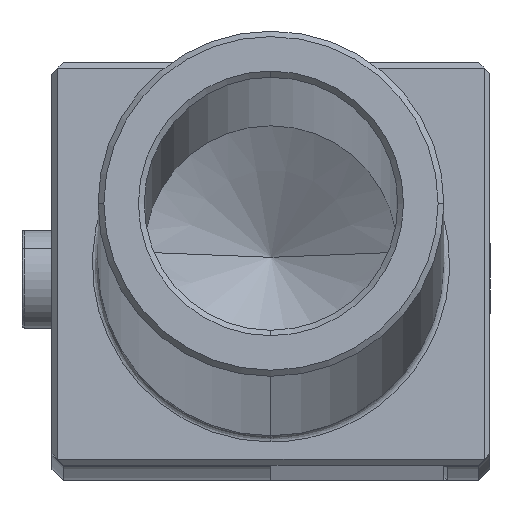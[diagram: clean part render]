
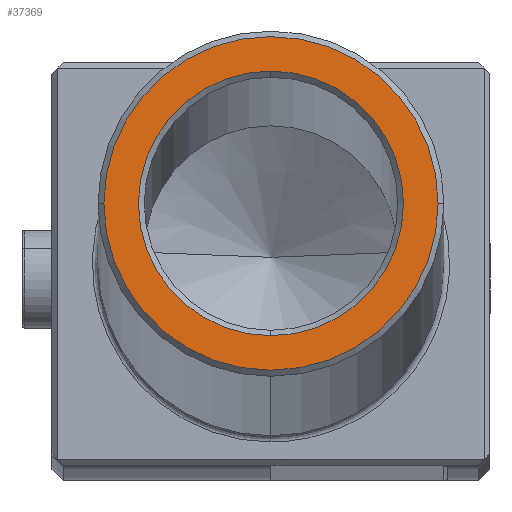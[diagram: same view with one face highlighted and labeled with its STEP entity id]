
A CAD part, left-side view. The second image highlights one B-rep face of the part: STEP entity #37369.
In plain terms, the highlighted planar face has unit normal (-0.998, 0, 0.065).
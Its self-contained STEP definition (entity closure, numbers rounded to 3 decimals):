
#6 = EDGE_CURVE ( 'NONE', #17999, #1094, #18012, .T. ) ;
#1094 = VERTEX_POINT ( 'NONE', #7784 ) ;
#1678 = EDGE_CURVE ( 'NONE', #22093, #34521, #10751, .T. ) ;
#1822 = ORIENTED_EDGE ( 'NONE', *, *, #1678, .T. ) ;
#2098 = AXIS2_PLACEMENT_3D ( 'NONE', #12620, #33110, #15548 ) ;
#4011 = CIRCLE ( 'NONE', #2098, 14.5 ) ;
#5130 = DIRECTION ( 'NONE',  ( -0.998, 0., 0.065 ) ) ;
#5507 = CIRCLE ( 'NONE', #20339, 11.5 ) ;
#7235 = FACE_OUTER_BOUND ( 'NONE', #13792, .T. ) ;
#7784 = CARTESIAN_POINT ( 'NONE',  ( -153.119, 48.728, 6.563 ) ) ;
#10751 = CIRCLE ( 'NONE', #22888, 11.5 ) ;
#10876 = PLANE ( 'NONE',  #30727 ) ;
#10904 = CARTESIAN_POINT ( 'NONE',  ( -153.119, 34.228, 6.563 ) ) ;
#12043 = EDGE_LOOP ( 'NONE', ( #37758, #1822 ) ) ;
#12620 = CARTESIAN_POINT ( 'NONE',  ( -153.119, 34.228, 6.563 ) ) ;
#13792 = EDGE_LOOP ( 'NONE', ( #36360, #27420 ) ) ;
#13848 = DIRECTION ( 'NONE',  ( 0.065, 0., 0.998 ) ) ;
#15548 = DIRECTION ( 'NONE',  ( 0., 1., 0. ) ) ;
#15746 = CARTESIAN_POINT ( 'NONE',  ( -153.87, 34.228, -4.912 ) ) ;
#17442 = DIRECTION ( 'NONE',  ( 0., 1., 0. ) ) ;
#17999 = VERTEX_POINT ( 'NONE', #28948 ) ;
#18012 = CIRCLE ( 'NONE', #19141, 14.5 ) ;
#18994 = CARTESIAN_POINT ( 'NONE',  ( -152.368, 34.228, 18.039 ) ) ;
#19141 = AXIS2_PLACEMENT_3D ( 'NONE', #35834, #37831, #17442 ) ;
#20339 = AXIS2_PLACEMENT_3D ( 'NONE', #10904, #31392, #13848 ) ;
#20357 = EDGE_CURVE ( 'NONE', #1094, #17999, #4011, .T. ) ;
#22093 = VERTEX_POINT ( 'NONE', #15746 ) ;
#22644 = CARTESIAN_POINT ( 'NONE',  ( -154.077, 19.554, -8.08 ) ) ;
#22817 = FACE_BOUND ( 'NONE', #12043, .T. ) ;
#22888 = AXIS2_PLACEMENT_3D ( 'NONE', #33317, #33056, #32811 ) ;
#25569 = DIRECTION ( 'NONE',  ( 0.065, 0., 0.998 ) ) ;
#27420 = ORIENTED_EDGE ( 'NONE', *, *, #6, .T. ) ;
#28948 = CARTESIAN_POINT ( 'NONE',  ( -153.119, 19.728, 6.563 ) ) ;
#30510 = EDGE_CURVE ( 'NONE', #34521, #22093, #5507, .T. ) ;
#30727 = AXIS2_PLACEMENT_3D ( 'NONE', #22644, #5130, #25569 ) ;
#31392 = DIRECTION ( 'NONE',  ( 0.998, 0., -0.065 ) ) ;
#32811 = DIRECTION ( 'NONE',  ( 0.065, 0., 0.998 ) ) ;
#33056 = DIRECTION ( 'NONE',  ( 0.998, 0., -0.065 ) ) ;
#33110 = DIRECTION ( 'NONE',  ( -0.998, 0., 0.065 ) ) ;
#33317 = CARTESIAN_POINT ( 'NONE',  ( -153.119, 34.228, 6.563 ) ) ;
#34521 = VERTEX_POINT ( 'NONE', #18994 ) ;
#35834 = CARTESIAN_POINT ( 'NONE',  ( -153.119, 34.228, 6.563 ) ) ;
#36360 = ORIENTED_EDGE ( 'NONE', *, *, #20357, .T. ) ;
#37369 = ADVANCED_FACE ( 'NONE', ( #22817, #7235 ), #10876, .T. ) ;
#37758 = ORIENTED_EDGE ( 'NONE', *, *, #30510, .T. ) ;
#37831 = DIRECTION ( 'NONE',  ( -0.998, 0., 0.065 ) ) ;
